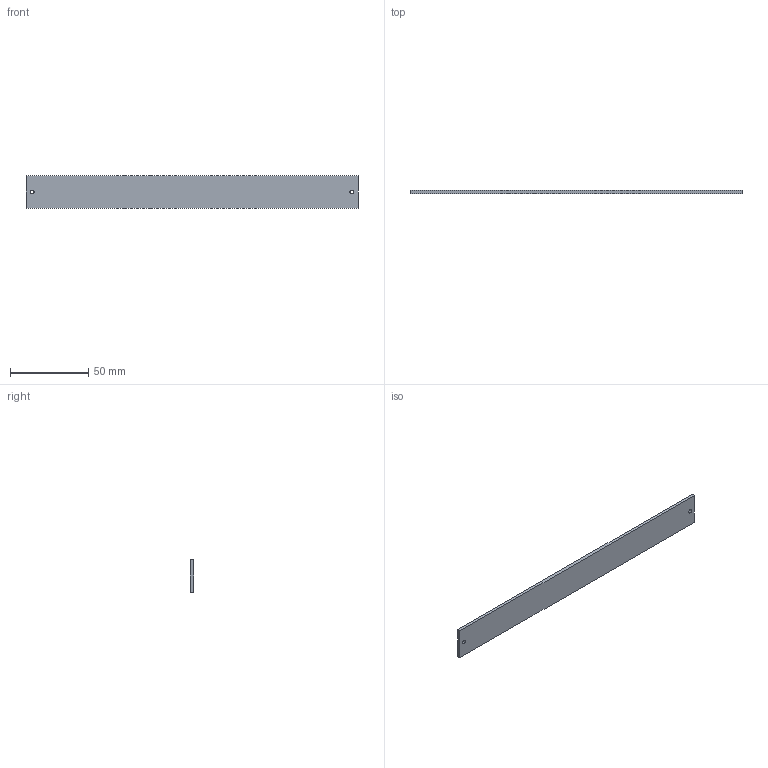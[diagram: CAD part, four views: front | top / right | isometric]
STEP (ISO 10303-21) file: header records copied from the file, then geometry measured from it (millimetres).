
FILE_DESCRIPTION (( 'STEP AP214' ), '1' );
FILE_NAME ('LBRX-00-200-3-DIFFUSER.STEP', '2021-11-05T05:35:53', ( '' ), ( '' ), 'SwSTEP 2.0', 'SolidWorks 2021', '' );
FILE_SCHEMA (( 'AUTOMOTIVE_DESIGN' ));
Length unit declared in the file: millimetre
Products named in the file (1): LBRX-00-200-3-DIFFUSER
Bounding box: 212 x 2 x 21 mm (x, y, z)
Volume: 8884.4 mm3; surface area: 9847.8 mm2
Topology: 1 solids, 1 shells, 10 faces, 24 edges, 16 vertices
Faces by surface type: plane 6, cylinder 4
Entity records: 338 total; most frequent: DIRECTION 54, CARTESIAN_POINT 51, ORIENTED_EDGE 48, EDGE_CURVE 24, AXIS2_PLACEMENT_3D 19, LINE 16, VECTOR 16, VERTEX_POINT 16
